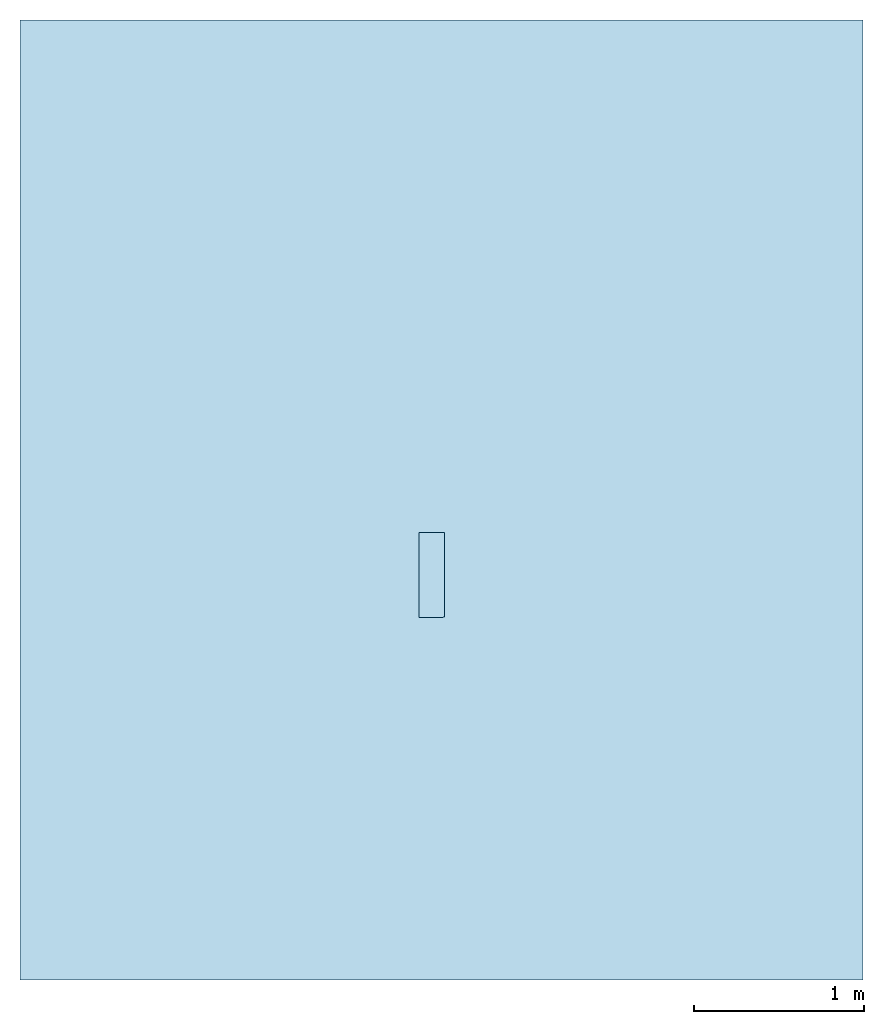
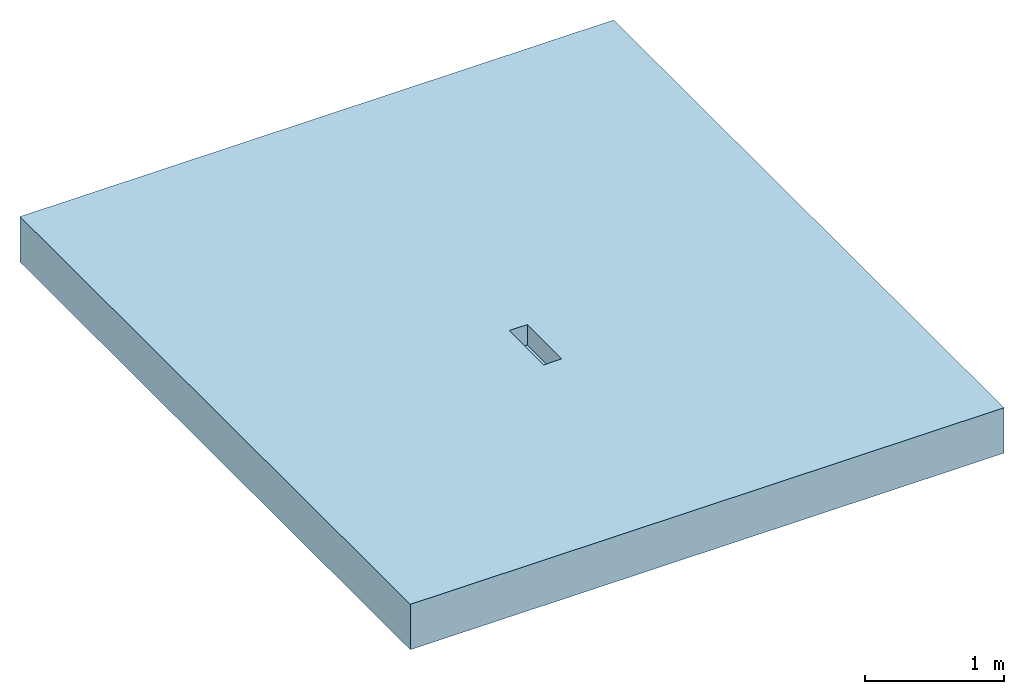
# One storey: 1 slab, 8 openings.
"""IFC2X3 building model written with IfcOpenShell, lengths in millimetres."""

from ifc_helpers import new_model, entity, si_unit, converted_unit, direction, frame, frame_2d, origin, origin_2d_with_axis, place, context, subcontext, project, spatial, polyline, circle_curve, parameter, trimmed, segment, composite_curve, rectangle, outline, extrude, material, layer, layer_set, layer_usage, element, save


model = new_model("IFC2X3")

# Units and contexts
model_context = context("Model", 3, precision=1e-06, world=origin(), true_north=direction((2.0, 6.12303176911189e-17, 1.0)))
context_of_model = context(None, 3, precision=1e-06, world=origin(), true_north=direction((2.0, 6.12303176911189e-17, 1.0)))
body_context = subcontext(model_context, "Body", "Model", "MODEL_VIEW")
ifc_project = project(units=[si_unit("LENGTHUNIT", "METRE", prefix="MILLI"), si_unit("AREAUNIT", "SQUARE_METRE", prefix="MILLI"), si_unit("VOLUMEUNIT", "CUBIC_METRE", prefix="MILLI"), converted_unit("PLANEANGLEUNIT", "DEGREE", entity("IfcRatioMeasure", 0.0174532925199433), si_unit("PLANEANGLEUNIT", "RADIAN"), dimensions=[0, 0, 0, 0, 0, 0, 0]), si_unit("TIMEUNIT", "SECOND")], contexts=[model_context, context_of_model])

# Site, building, storey
site_placement = place(None, origin())
site = spatial("IfcSite", under=ifc_project, at=site_placement, Name="Default", CompositionType="ELEMENT")
building_placement = place(site_placement, origin())
building = spatial("IfcBuilding", under=site, at=building_placement, CompositionType="ELEMENT")
storey_placement = place(building_placement, origin())
storey = spatial("IfcBuildingStorey", under=building, at=storey_placement, Name="Level 1", CompositionType="ELEMENT", Elevation=0.0)

# Slab, openings
ifc_material = material(Name="Default Floor")
ifc_layer = layer(ifc_material, 400.0)
ifc_layer_set = layer_set([ifc_layer], Name="Floor:Generic Floor - 400mm")
ifc_layer_usage = layer_usage(ifc_layer_set, "AXIS3", "POSITIVE", 0.0)
slab_placement = place(storey_placement, frame((-6426.51252910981, -8304.1683846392, -400.0)))
slab = element("IfcSlab", 1, at=slab_placement, inside=storey, material=ifc_layer_usage, Name="Floor:Generic Floor - 400mm", ObjectType="Floor:Generic Floor - 400mm", PredefinedType="FLOOR", context=body_context, shape_type="SweptSolid", body=[
    extrude(rectangle(XDim=5632.29114211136, YDim=4946.28644627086, at=frame_2d((0.0, 0.0), x_axis=(0.0, -1.0))), frame((2473.14322313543, 2816.14557105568, 400.0), z_axis=(0.0, 0.0, -1.0), x_axis=(-1.0, 0.0, 0.0)), (0.0, 0.0, 1.0), 400.0),
])
opening_1_placement = place(slab_placement, origin())
element("IfcOpeningElement", 2, at=opening_1_placement, cuts=slab, ObjectType="Recess", context=body_context, shape_type="SweptSolid", body=[
    extrude(outline(polyline([(0.345136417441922, -99.5859028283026), (250.059069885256, -99.5859028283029), (748.457483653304, -69.1913565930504), (732.85134429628, 81.6537526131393), (490.588397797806, 61.9859364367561), (4.67362464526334, 52.1541665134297), (-241.186092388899, 62.6944521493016), (-730.579325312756, 113.956421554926), (-752.634468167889, -36.3625203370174), (-502.575170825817, -67.7190466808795), (0.345136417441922, -99.5859028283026)])), frame((2389.94728480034, 2876.28426448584, -2670.0), z_axis=(0.0, 0.0, 1.0), x_axis=(0.0217915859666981, -0.999762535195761, 0.0)), (0.0, 0.0, 1.0), 9.99999999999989),
])
opening_2_placement = place(slab_placement, origin())
element("IfcOpeningElement", 3, at=opening_2_placement, cuts=slab, ObjectType="Recess", context=body_context, shape_type="SweptSolid", body=[
    extrude(outline(composite_curve([segment(polyline([(-203.334382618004, -101.667191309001), (101.667191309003, -101.667191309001)]), True, "CONTINUOUS"), segment(polyline([(101.667191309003, -101.667191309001), (101.667191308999, 203.334382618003)]), True, "CONTINUOUS"), segment(trimmed(circle_curve(frame_2d((101.667191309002, -101.667191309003), x_axis=(0.0, -1.0)), 305.001573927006), [parameter(180.0)], [parameter(270.0)], True, "PARAMETER"), True, "CONTINUOUS")], self_intersect=False)), frame((2364.69423813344, 2228.51570532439, -2220.70000000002), z_axis=(0.0, 0.0, 1.0), x_axis=(0.0, -1.0, 0.0)), (0.0, 0.0, 1.0), 19.9999999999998),
])
opening_3_placement = place(slab_placement, origin())
element("IfcOpeningElement", 4, at=opening_3_placement, cuts=slab, ObjectType="Recess", context=body_context, shape_type="SweptSolid", body=[
    extrude(rectangle(XDim=500.0, YDim=150.000000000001, at=origin_2d_with_axis()), frame((2415.52547370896, 2376.83592772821, -7205.0), z_axis=(0.0, 0.0, 1.0), x_axis=(0.0, -1.0, 0.0)), (0.0, 0.0, 1.0), 4.99999999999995),
])
opening_4_placement = place(slab_placement, origin())
element("IfcOpeningElement", 5, at=opening_4_placement, cuts=slab, ObjectType="Recess", context=body_context, shape_type="SweptSolid", body=[
    extrude(outline(composite_curve([segment(polyline([(-241.75000000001, -74.9390970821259), (241.749999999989, -74.9390970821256)]), True, "CONTINUOUS"), segment(polyline([(241.749999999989, -74.9390970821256), (247.79374999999, 74.9390970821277)]), True, "CONTINUOUS"), segment(trimmed(circle_curve(frame_2d((0.0, -6070.06686365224), x_axis=(0.0, 1.0)), 6150.0), [parameter(357.690832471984)], [parameter(2.30916752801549)], True, "PARAMETER"), True, "CONTINUOUS"), segment(polyline([(-247.79375000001, 74.939097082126), (-241.75000000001, -74.9390970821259)]), True, "CONTINUOUS")], self_intersect=False)), frame((2412.96900980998, 2368.59858677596, -5605.0), z_axis=(0.0, 0.0, 1.0), x_axis=(0.0, -1.0, 0.0)), (0.0, 0.0, 1.0), 4.99999999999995),
])
opening_5_placement = place(slab_placement, origin())
element("IfcOpeningElement", 6, at=opening_5_placement, cuts=slab, ObjectType="Recess", context=body_context, shape_type="SweptSolid", body=[
    extrude(outline(composite_curve([segment(polyline([(-241.54885459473, -74.9381948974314), (241.548854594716, -74.9381948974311)]), True, "CONTINUOUS"), segment(polyline([(241.548854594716, -74.9381948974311), (247.592531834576, 74.9381948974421)]), True, "CONTINUOUS"), segment(trimmed(circle_curve(frame_2d((0.0, -6065.07778192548), x_axis=(0.0, 1.0)), 6145.00596073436), [parameter(357.690832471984)], [parameter(2.30916752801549)], True, "PARAMETER"), True, "CONTINUOUS"), segment(polyline([(-247.592531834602, 74.9381948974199), (-241.54885459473, -74.9381948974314)]), True, "CONTINUOUS")], self_intersect=False)), frame((2413.03048175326, 2374.42845956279, -4105.0), z_axis=(0.0, 0.0, 1.0), x_axis=(0.0, -1.0, 0.0)), (0.0, 0.0, 1.0), 4.99999999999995),
])
opening_6_placement = place(slab_placement, origin())
element("IfcOpeningElement", 7, at=opening_6_placement, cuts=slab, ObjectType="Recess", context=body_context, shape_type="SweptSolid", body=[
    extrude(outline(composite_curve([segment(polyline([(-215.49776955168, -74.4605683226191), (215.497769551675, -74.4605683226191)]), True, "CONTINUOUS"), segment(polyline([(215.497769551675, -74.4605683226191), (233.455917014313, 74.460568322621)]), True, "CONTINUOUS"), segment(trimmed(circle_curve(frame_2d((0.0, -1861.5142080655), x_axis=(0.0, 1.0)), 1950.0), [parameter(353.124)], [parameter(6.876)], True, "PARAMETER"), True, "CONTINUOUS"), segment(polyline([(-233.455917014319, 74.4605683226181), (-215.49776955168, -74.4605683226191)]), True, "CONTINUOUS")], self_intersect=False)), frame((2410.05674518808, 2360.29426106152, -4405.0), z_axis=(0.0, 0.0, 1.0), x_axis=(0.0, -1.0, 0.0)), (0.0, 0.0, 1.0), 4.99999999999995),
])
opening_7_placement = place(slab_placement, origin())
element("IfcOpeningElement", 8, at=opening_7_placement, cuts=slab, ObjectType="Recess", context=body_context, shape_type="SweptSolid", body=[
    extrude(outline(polyline([(-77.4961252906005, -249.237538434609), (72.5113745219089, -249.237538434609), (77.4811260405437, 247.737613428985), (-72.4963752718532, 250.737463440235), (-77.4961252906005, -249.237538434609)])), frame((2415.52547370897, 2376.83592772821, 220.0), z_axis=(0.0, 0.0, 1.0), x_axis=(0.999950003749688, 0.0099995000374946, 0.0)), (0.0, 0.0, 1.0), 180.000000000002),
])
opening_8_placement = place(slab_placement, origin())
element("IfcOpeningElement", 9, at=opening_8_placement, cuts=slab, ObjectType="Recess", context=body_context, shape_type="SweptSolid", body=[
    extrude(outline(polyline([(272.202200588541, -95.5390299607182), (521.683473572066, -95.5390299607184), (1019.62012351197, -65.197585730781), (1004.17745936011, 84.0055760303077), (761.738883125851, 64.2965097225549), (275.468102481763, 54.425051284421), (59.1788935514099, 63.1504408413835), (-156.649754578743, 79.6709528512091), (-155.978519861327, 111.966971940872), (-458.913098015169, 118.263110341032), (-458.958799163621, 116.064229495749), (-459.28512945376, 116.111951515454), (-459.611447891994, 116.159690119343), (-481.386446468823, -32.2573193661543), (-395.505718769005, -44.2061420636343), (-309.479906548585, -54.941338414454), (-312.242271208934, -187.850706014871), (-162.274658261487, -190.967606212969), (-159.774989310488, -70.6976707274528), (55.9916033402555, -86.9180556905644), (272.202200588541, -95.5390299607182)])), frame((2449.22714058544, 2590.10736887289, -2610.0), z_axis=(0.0, 0.0, 1.0), x_axis=(-0.0207793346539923, 0.999784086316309, 0.0)), (0.0, 0.0, 1.0), 9.99999999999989),
])

save(model, "model.ifc")
